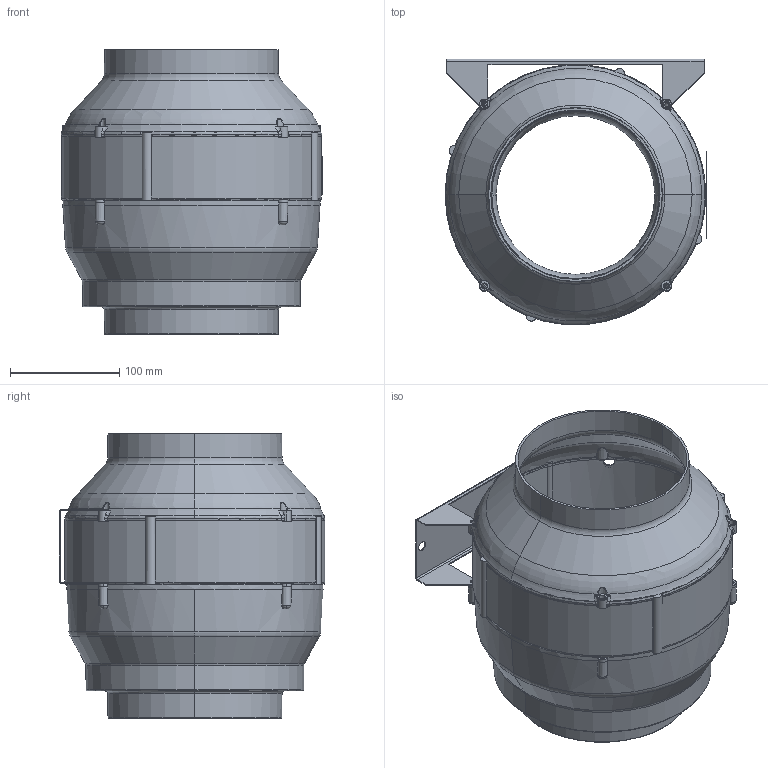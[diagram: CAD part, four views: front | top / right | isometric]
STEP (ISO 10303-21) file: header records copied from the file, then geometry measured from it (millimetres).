
FILE_DESCRIPTION (( 'STEP AP203' ), '1' );
FILE_NAME ('122227-01_EL160LE2M01.STEP', '2013-10-07T08:24:16', ( '' ), ( '' ), 'SwSTEP 2.0', 'SolidWorks 2012', '' );
FILE_SCHEMA (( 'CONFIG_CONTROL_DESIGN' ));
Length unit declared in the file: millimetre
Products named in the file (1): 122227-01_EL160LE2M01
Bounding box: 239.16 x 242.77 x 260 mm (x, y, z)
Surface area: 432402.2 mm2 (no closed solid volume)
Topology: 0 solids, 21 shells, 389 faces, 1424 edges, 1027 vertices
Faces by surface type: cylinder 116, torus 75, plane 74, cone 65, bspline 59
Entity records: 21035 total; most frequent: CARTESIAN_POINT 9592, ORIENTED_EDGE 2311, DIRECTION 2240, EDGE_CURVE 1424, VERTEX_POINT 1027, AXIS2_PLACEMENT_3D 919, CIRCLE 588, EDGE_LOOP 438
